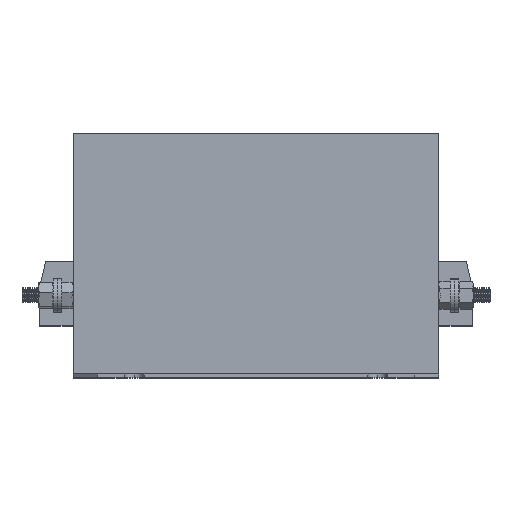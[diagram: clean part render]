
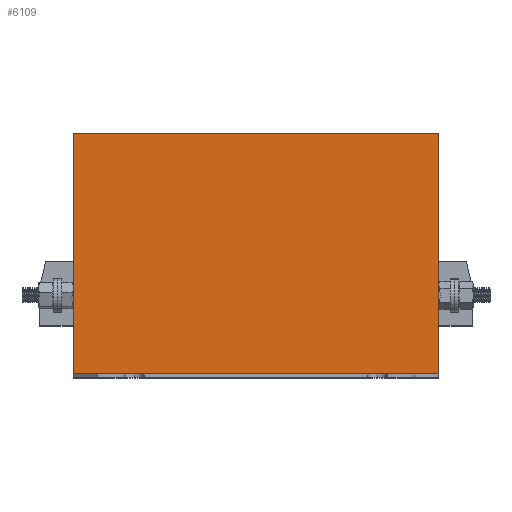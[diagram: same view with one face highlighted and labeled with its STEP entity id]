
A CAD part, top view. The second image highlights one B-rep face of the part: STEP entity #6109.
In plain terms, the highlighted planar face has unit normal (0, 0, 1).
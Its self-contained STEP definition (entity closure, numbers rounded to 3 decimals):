
#744 = DIRECTION ( 'NONE',  ( 1., 0., 0. ) ) ;
#1028 = CARTESIAN_POINT ( 'NONE',  ( 120., 80., -14. ) ) ;
#1181 = DIRECTION ( 'NONE',  ( 1., 0., 0. ) ) ;
#1247 = CARTESIAN_POINT ( 'NONE',  ( 0., 1.2, -14. ) ) ;
#1544 = EDGE_CURVE ( 'NONE', #2822, #3788, #2788, .T. ) ;
#1697 = EDGE_CURVE ( 'NONE', #6486, #2822, #4231, .T. ) ;
#1844 = VECTOR ( 'NONE', #1181, 1000. ) ;
#1883 = CARTESIAN_POINT ( 'NONE',  ( 0., 80., -14. ) ) ;
#2051 = CARTESIAN_POINT ( 'NONE',  ( 0., 80., -14. ) ) ;
#2160 = CARTESIAN_POINT ( 'NONE',  ( 120., 1.2, -14. ) ) ;
#2289 = AXIS2_PLACEMENT_3D ( 'NONE', #2051, #4504, #6955 ) ;
#2429 = VECTOR ( 'NONE', #744, 1000. ) ;
#2788 = LINE ( 'NONE', #5238, #6862 ) ;
#2822 = VERTEX_POINT ( 'NONE', #1028 ) ;
#3587 = VERTEX_POINT ( 'NONE', #1247 ) ;
#3614 = EDGE_CURVE ( 'NONE', #6486, #3587, #7389, .T. ) ;
#3788 = VERTEX_POINT ( 'NONE', #2160 ) ;
#3792 = LINE ( 'NONE', #6240, #2429 ) ;
#4186 = VECTOR ( 'NONE', #4329, 1000. ) ;
#4217 = CARTESIAN_POINT ( 'NONE',  ( 0., 80., -14. ) ) ;
#4231 = LINE ( 'NONE', #6674, #1844 ) ;
#4329 = DIRECTION ( 'NONE',  ( 0., -1., 0. ) ) ;
#4504 = DIRECTION ( 'NONE',  ( 0., 0., -1. ) ) ;
#4941 = ORIENTED_EDGE ( 'NONE', *, *, #1544, .F. ) ;
#5108 = FACE_OUTER_BOUND ( 'NONE', #6401, .T. ) ;
#5238 = CARTESIAN_POINT ( 'NONE',  ( 120., 80., -14. ) ) ;
#6109 = ADVANCED_FACE ( 'NONE', ( #5108 ), #7564, .F. ) ;
#6209 = ORIENTED_EDGE ( 'NONE', *, *, #7096, .T. ) ;
#6240 = CARTESIAN_POINT ( 'NONE',  ( 0., 1.2, -14. ) ) ;
#6401 = EDGE_LOOP ( 'NONE', ( #6209, #4941, #7045, #7634 ) ) ;
#6486 = VERTEX_POINT ( 'NONE', #4217 ) ;
#6674 = CARTESIAN_POINT ( 'NONE',  ( 0., 80., -14. ) ) ;
#6862 = VECTOR ( 'NONE', #7692, 1000. ) ;
#6955 = DIRECTION ( 'NONE',  ( 0., -1., 0. ) ) ;
#7045 = ORIENTED_EDGE ( 'NONE', *, *, #1697, .F. ) ;
#7096 = EDGE_CURVE ( 'NONE', #3587, #3788, #3792, .T. ) ;
#7389 = LINE ( 'NONE', #1883, #4186 ) ;
#7564 = PLANE ( 'NONE',  #2289 ) ;
#7634 = ORIENTED_EDGE ( 'NONE', *, *, #3614, .T. ) ;
#7692 = DIRECTION ( 'NONE',  ( 0., -1., 0. ) ) ;
